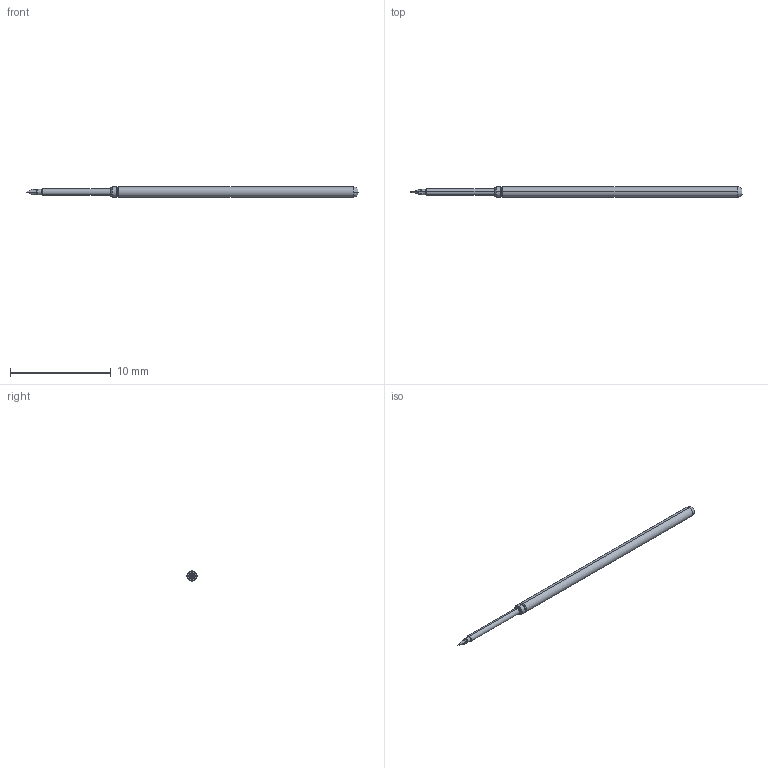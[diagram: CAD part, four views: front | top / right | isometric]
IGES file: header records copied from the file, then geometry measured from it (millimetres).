
Start section: SolidWorks IGES file using analytic representation for surfaces
Global section: file name: Z:\probe solid model mockups\Solidworks models\IGES Files\LFRE-1 IGES files\LFRE-1I40.IGS; native system: SolidWorks 2016; preprocessor: SolidWorks 2016; author: mlee; date: 180928.115926; units: inch
Bounding box: 33.02 x 1.02 x 1.02 mm (x, y, z)
Surface area: 94.1 mm2 (no closed solid volume)
Topology: 0 solids, 0 shells, 32 faces, 208 edges, 206 vertices
Faces by surface type: revolution 24, bspline 8
